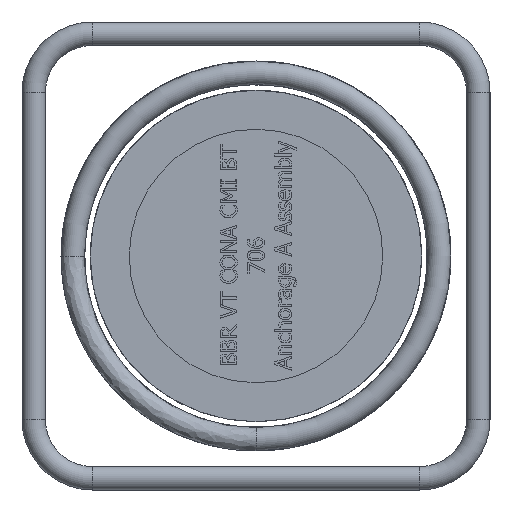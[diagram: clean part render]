
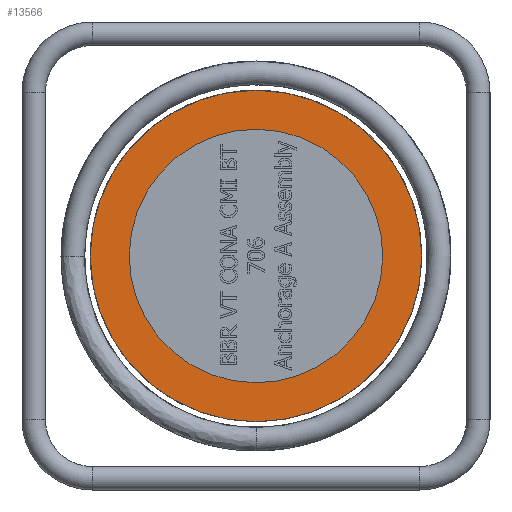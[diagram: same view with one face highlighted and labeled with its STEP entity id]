
A CAD part, left-side view. The second image highlights one B-rep face of the part: STEP entity #13566.
In plain terms, the highlighted planar face has unit normal (-1, 0, 0).
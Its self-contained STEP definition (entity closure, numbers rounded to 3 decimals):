
#135=CIRCLE('',#14046,65.);
#138=CIRCLE('',#14051,85.);
#1336=FACE_BOUND('',#2693,.T.);
#1914=FACE_OUTER_BOUND('',#2692,.T.);
#2692=EDGE_LOOP('',(#11239));
#2693=EDGE_LOOP('',(#11240));
#5998=VERTEX_POINT('',#24351);
#6001=VERTEX_POINT('',#24360);
#7767=EDGE_CURVE('',#5998,#5998,#135,.T.);
#7771=EDGE_CURVE('',#6001,#6001,#138,.T.);
#11239=ORIENTED_EDGE('',*,*,#7771,.T.);
#11240=ORIENTED_EDGE('',*,*,#7767,.T.);
#12251=PLANE('',#14050);
#13566=ADVANCED_FACE('',(#1914,#1336),#12251,.T.);
#14046=AXIS2_PLACEMENT_3D('',#24352,#16044,#16045);
#14050=AXIS2_PLACEMENT_3D('',#24359,#16053,#16054);
#14051=AXIS2_PLACEMENT_3D('',#24361,#16055,#16056);
#16044=DIRECTION('center_axis',(1.,0.,0.));
#16045=DIRECTION('ref_axis',(0.,-0.328,-0.945));
#16053=DIRECTION('center_axis',(-1.,0.,0.));
#16054=DIRECTION('ref_axis',(0.,1.,0.));
#16055=DIRECTION('center_axis',(-1.,0.,0.));
#16056=DIRECTION('ref_axis',(0.,0.,
1.));
#24351=CARTESIAN_POINT('',(50.,21.333,61.399));
#24352=CARTESIAN_POINT('Origin',(50.,0.,
0.));
#24359=CARTESIAN_POINT('Origin',(50.,0.,
66.));
#24360=CARTESIAN_POINT('',(50.,0.,-85.));
#24361=CARTESIAN_POINT('Origin',(50.,0.,
0.));
